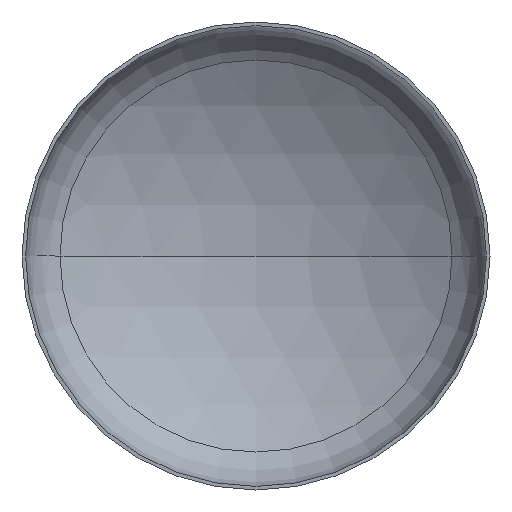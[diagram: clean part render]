
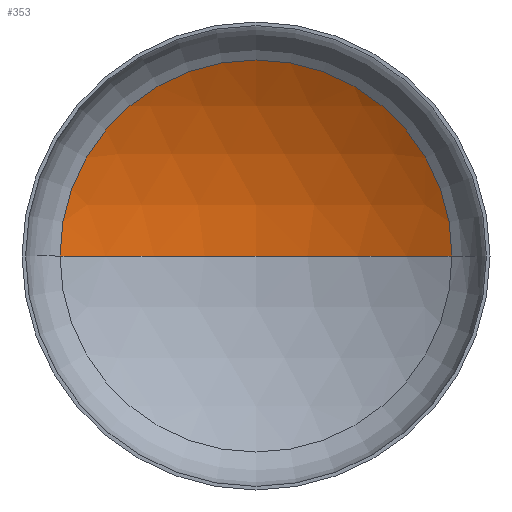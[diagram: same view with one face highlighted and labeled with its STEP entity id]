
A CAD part, front view. The second image highlights one B-rep face of the part: STEP entity #353.
In plain terms, the highlighted spherical face has radius 6000 mm.
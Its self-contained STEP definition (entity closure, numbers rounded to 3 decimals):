
#29 = VERTEX_POINT ( 'NONE', #229 ) ;
#51 = ORIENTED_EDGE ( 'NONE', *, *, #196, .T. ) ;
#56 = ORIENTED_EDGE ( 'NONE', *, *, #198, .T. ) ;
#58 = AXIS2_PLACEMENT_3D ( 'NONE', #392, #350, #387 ) ;
#59 = VERTEX_POINT ( 'NONE', #209 ) ;
#93 = AXIS2_PLACEMENT_3D ( 'NONE', #343, #149, #176 ) ;
#97 = AXIS2_PLACEMENT_3D ( 'NONE', #346, #263, #107 ) ;
#103 = AXIS2_PLACEMENT_3D ( 'NONE', #120, #368, #370 ) ;
#106 = ORIENTED_EDGE ( 'NONE', *, *, #203, .F. ) ;
#107 = DIRECTION ( 'NONE',  ( -1., 0., 0. ) ) ;
#108 = EDGE_LOOP ( 'NONE', ( #106, #56, #51 ) ) ;
#120 = CARTESIAN_POINT ( 'NONE',  ( 0., 1103.996, 0. ) ) ;
#130 = VERTEX_POINT ( 'NONE', #195 ) ;
#146 = CIRCLE ( 'NONE', #93, 6000. ) ;
#149 = DIRECTION ( 'NONE',  ( 0., 0., 1. ) ) ;
#176 = DIRECTION ( 'NONE',  ( 1., 0., 0. ) ) ;
#195 = CARTESIAN_POINT ( 'NONE',  ( 0., 1992.33, 0. ) ) ;
#196 = EDGE_CURVE ( 'NONE', #29, #59, #245, .T. ) ;
#198 = EDGE_CURVE ( 'NONE', #130, #29, #305, .T. ) ;
#203 = EDGE_CURVE ( 'NONE', #130, #59, #146, .T. ) ;
#206 = SPHERICAL_SURFACE ( 'NONE', #58, 6000. ) ;
#209 = CARTESIAN_POINT ( 'NONE',  ( -3141.796, 1103.996, 0. ) ) ;
#229 = CARTESIAN_POINT ( 'NONE',  ( 3141.796, 1103.996, 0. ) ) ;
#245 = CIRCLE ( 'NONE', #103, 3141.796 ) ;
#263 = DIRECTION ( 'NONE',  ( 0., 0., -1. ) ) ;
#305 = CIRCLE ( 'NONE', #97, 6000. ) ;
#343 = CARTESIAN_POINT ( 'NONE',  ( 0., -4007.67, 0. ) ) ;
#346 = CARTESIAN_POINT ( 'NONE',  ( 0., -4007.67, 0. ) ) ;
#350 = DIRECTION ( 'NONE',  ( 0., 0., -1. ) ) ;
#353 = ADVANCED_FACE ( 'NONE', ( #400 ), #206, .F. ) ;
#368 = DIRECTION ( 'NONE',  ( 0., -1., 0. ) ) ;
#370 = DIRECTION ( 'NONE',  ( 1., 0., 0. ) ) ;
#387 = DIRECTION ( 'NONE',  ( -1., 0., 0. ) ) ;
#392 = CARTESIAN_POINT ( 'NONE',  ( 0., -4007.67, 0. ) ) ;
#400 = FACE_OUTER_BOUND ( 'NONE', #108, .T. ) ;
